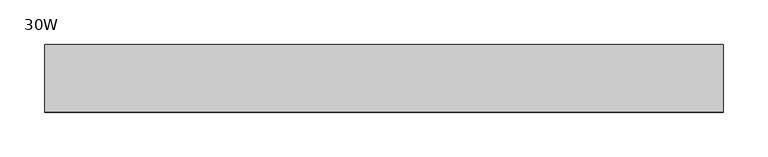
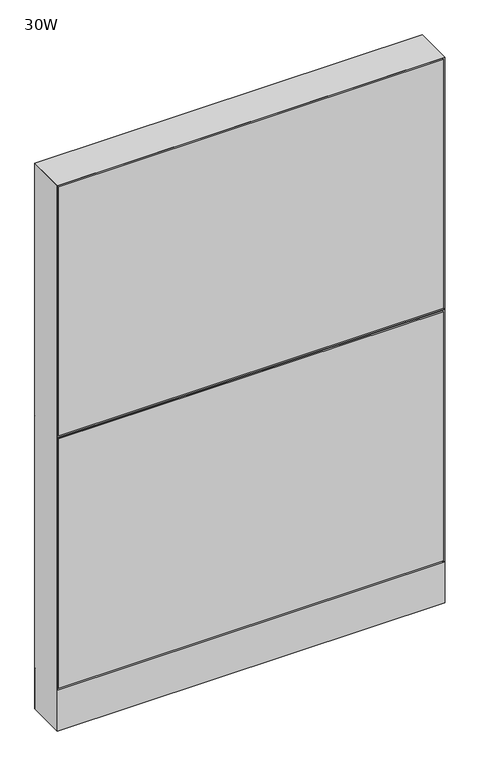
"""IFC4 building model written with IfcOpenShell, lengths in millimetres: furniture geometry, Steelcase - Montage - Frame - 45H - Enhanced Standard - Base Cavity : 30W."""

from ifc_helpers import new_model, si_unit, point, frame, frame_2d, origin, origin_with_axes, place, context, project, spatial, polyline, circle_curve, trimmed, segment, composite_curve, outline, extrude, faceted_brep, source, transform, mapped, element, save


def furniture_30w_9c4a72f9(model_context):
    return source(origin(), model_context, "Body", "SolidModel", [
        faceted_brep([(6.3499917, 31.7526299, 619.1249997), (6.3499917, 31.7526299, 606.4250003), (755.6500047, 31.7526299, 606.4250003), (755.6500047, 31.7526299, 619.1249997), (-5.4e-06, 38.102627, 612.7749973), (762.0, 38.1026253, 612.7749956)], [[[0, 1, 2, 3]], [[4, 1, 0]], [[3, 2, 5]], [[4, 0, 3, 5]], [[5, 2, 1, 4]]]),
        extrude(outline(polyline([(3.175, 31.7500194), (3.175, 38.1000194), (758.825, 38.1000194), (758.825, 31.7500194), (3.175, 31.7500194)])), frame((0.0, 0.0, 92.075), z_axis=(0.0, 0.0, 1.0), x_axis=(1.0, 0.0, 0.0)), (0.0, 0.0, 1.0), 517.525),
        extrude(outline(polyline([(3.175, 31.7500194), (3.175, 38.1000194), (758.825, 38.1000194), (758.825, 31.7500194), (3.175, 31.7500194)])), frame((0.0, 0.0, 615.95), z_axis=(0.0, 0.0, 1.0), x_axis=(1.0, 0.0, 0.0)), (0.0, 0.0, 1.0), 517.525),
        faceted_brep([(6.3499917, -31.7526299, 619.1249997), (755.6500047, -31.7526299, 619.1249997), (755.6500047, -31.7526299, 606.4250003), (6.3499917, -31.7526299, 606.4250003), (-5.4e-06, -38.102627, 612.7750027), (762.0, -38.1026253, 612.7750044)], [[[0, 1, 2, 3]], [[4, 0, 3]], [[1, 5, 2]], [[4, 5, 1, 0]], [[5, 4, 3, 2]]]),
        extrude(outline(polyline([(3.175, -31.7500194), (758.825, -31.7500194), (758.825, -38.1000194), (3.175, -38.1000194), (3.175, -31.7500194)])), frame((0.0, 0.0, 92.075), z_axis=(0.0, 0.0, 1.0), x_axis=(1.0, 0.0, 0.0)), (0.0, 0.0, 1.0), 517.525),
        extrude(outline(polyline([(3.175, -31.7500194), (758.825, -31.7500194), (758.825, -38.1000194), (3.175, -38.1000194), (3.175, -31.7500194)])), frame((0.0, 0.0, 615.95), z_axis=(0.0, 0.0, 1.0), x_axis=(1.0, 0.0, 0.0)), (0.0, 0.0, 1.0), 517.525),
        extrude(outline(polyline([(6.350003, -31.7499985), (755.649997, -31.7499985), (762.0, -38.1000015), (0.0, -38.1000015), (6.350003, -31.7499985)])), frame((0.0, 0.0, 4.064), z_axis=(0.0, 0.0, 1.0), x_axis=(1.0, 0.0, 0.0)), (0.0, 0.0, 1.0), 84.835997),
        extrude(outline(polyline([(6.3500002, 31.7500017), (0.0, 38.1000015), (762.0, 38.1000015), (755.6500002, 31.7500017), (6.3500002, 31.7500017)])), frame((0.0, 0.0, 4.064), z_axis=(0.0, 0.0, 1.0), x_axis=(1.0, 0.0, 0.0)), (0.0, 0.0, 1.0), 84.835997),
        faceted_brep([(762.0, -38.1000015, 1136.65), (0.0, -38.1000015, 1136.65), (6.3500484, -31.749953, 1130.2999516), (755.6499516, -31.749953, 1130.2999516), (6.3500484, 31.749953, 1130.2999516), (755.6499516, 31.749953, 1130.2999516), (0.0, 38.1000015, 1136.65), (762.0, 38.1000015, 1136.65)], [[[0, 1, 2, 3]], [[3, 2, 4, 5]], [[6, 7, 5, 4]], [[1, 0, 7, 6]], [[2, 1, 6, 4]], [[0, 3, 5, 7]]]),
        extrude(outline(composite_curve([segment(trimmed(circle_curve(frame_2d((44.45, 0.0)), 15.24), [point((29.21, 0.0))], [point((59.69, 0.0))], False, "CARTESIAN"), True, "CONTINUOUS"), segment(trimmed(circle_curve(frame_2d((44.45, 0.0)), 15.24), [point((59.69, 0.0))], [point((29.21, 0.0))], False, "CARTESIAN"), True, "CONTINUOUS")], self_intersect=False)), origin_with_axes(), (0.0, 0.0, 1.0), 4.064),
        extrude(outline(composite_curve([segment(trimmed(circle_curve(frame_2d((717.55, 0.0)), 15.24), [point((702.31, 0.0))], [point((732.79, 0.0))], False, "CARTESIAN"), True, "CONTINUOUS"), segment(trimmed(circle_curve(frame_2d((717.55, 0.0)), 15.24), [point((732.79, 0.0))], [point((702.31, 0.0))], False, "CARTESIAN"), True, "CONTINUOUS")], self_intersect=False)), origin_with_axes(), (0.0, 0.0, 1.0), 4.064),
        faceted_brep([(762.0, -38.1000106, 4.064), (762.0, 38.1000015, 4.064), (762.0, 38.1000015, 1136.65), (762.0, -38.1000106, 1136.6499637), (0.0, 38.1000015, 4.064), (0.0, -38.1000015, 4.064), (0.0, -38.1000015, 1136.65), (0.0, 38.1000015, 1136.65), (755.6499879, 31.7500017, 600.202), (6.35, 31.7500017, 600.202), (6.3499998, 31.7500017, 612.902), (755.6499879, 31.7500017, 612.902), (6.35, -31.7499985, 612.902), (755.6499879, -31.7499985, 612.902), (6.350003, -31.7499985, 600.202), (755.6499879, -31.7499985, 600.202), (6.35, 31.7500015, 4.064), (6.35, -31.7500015, 4.064), (755.6499879, 31.7499894, 4.064), (755.6499879, -31.7499985, 4.064), (6.35, 31.7500015, 1130.3), (6.35, -31.7500015, 1130.3), (755.6499879, -31.7499985, 1130.2999516), (755.6499879, 31.7499895, 1130.2999516)], [[[0, 1, 2, 3]], [[4, 5, 6, 7]], [[8, 9, 10, 11]], [[11, 10, 12, 13]], [[13, 12, 14, 15]], [[9, 8, 15, 14]], [[16, 17, 5, 4]], [[18, 1, 0, 19]], [[16, 4, 7, 20, 10, 9]], [[5, 17, 14, 12, 21, 6]], [[12, 10, 20, 21]], [[17, 16, 9, 14]], [[11, 13, 22, 23]], [[18, 19, 15, 8]], [[19, 0, 3, 22, 13, 15]], [[1, 18, 8, 11, 23, 2]], [[7, 6, 21, 20]], [[3, 2, 23, 22]]]),
    ])


if __name__ == "__main__":
    model = new_model("IFC4")
    model_context = context("Model", 3, world=origin())
    ifc_project = project(units=[si_unit("LENGTHUNIT", "METRE", prefix="MILLI")], contexts=[model_context])
    site = spatial("IfcSite", under=ifc_project)
    building = spatial("IfcBuilding", under=site)
    placement = place(None, origin())
    furniture_30w_shape = furniture_30w_9c4a72f9(model_context)
    element("IfcFurniture", 1, ObjectType="Steelcase - Montage - Frame - 45H - Enhanced Standard - Base Cavity : 30W", at=placement, inside=building, context=model_context, shape_type="MappedRepresentation", body=[
        mapped(furniture_30w_shape, transform((0.0, 0.0, 0.0), x_axis=(1.0, 0.0, 0.0), y_axis=(0.0, 1.0, 0.0), z_axis=(0.0, 0.0, 1.0))),
    ])
    save(model, "model.ifc")
